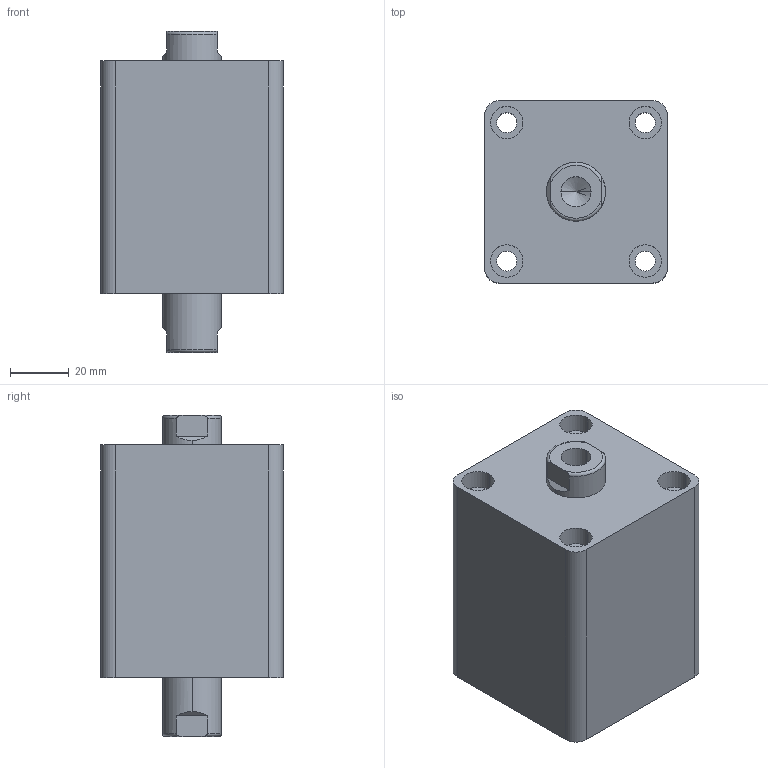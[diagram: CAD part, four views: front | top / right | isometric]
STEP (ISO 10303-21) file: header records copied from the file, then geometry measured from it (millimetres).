
FILE_DESCRIPTION (( 'STEP AP203' ), '1' );
FILE_NAME ('HTB-SW32-10N.STEP', '2019-10-07T08:50:09', ( '微软用户' ), ( '微软中国' ), 'SwSTEP 2.0', 'SolidWorks 2012', '' );
FILE_SCHEMA (( 'CONFIG_CONTROL_DESIGN' ));
Length unit declared in the file: millimetre
Products named in the file (3): HTB-SW32-10N; HTB-SW32-10N活塞杆; HTB-SW32-10掛极
Assembly tree (2 placements, depth 2):
  HTB-SW32-10N
    HTB-SW32-10掛极
    HTB-SW32-10N活塞杆
Bounding box: 62 x 62 x 109 mm (x, y, z)
Volume: 286819.2 mm3; surface area: 50766.6 mm2
Topology: 2 solids, 2 shells, 100 faces, 228 edges, 146 vertices
Faces by surface type: cylinder 48, plane 32, torus 12, cone 8
Entity records: 3237 total; most frequent: CARTESIAN_POINT 595, DIRECTION 542, ORIENTED_EDGE 448, AXIS2_PLACEMENT_3D 229, EDGE_CURVE 224, VERTEX_POINT 146, EDGE_LOOP 128, CIRCLE 124
